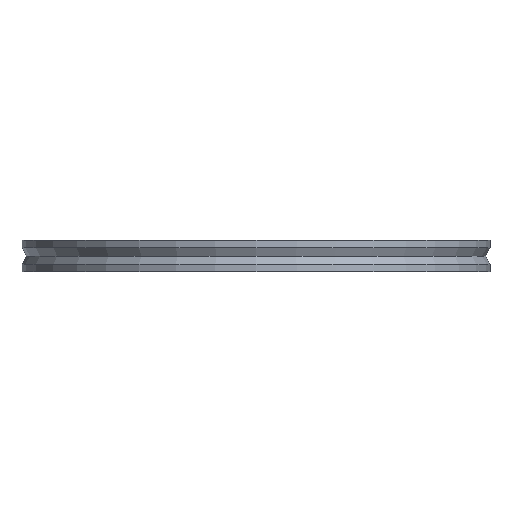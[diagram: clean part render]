
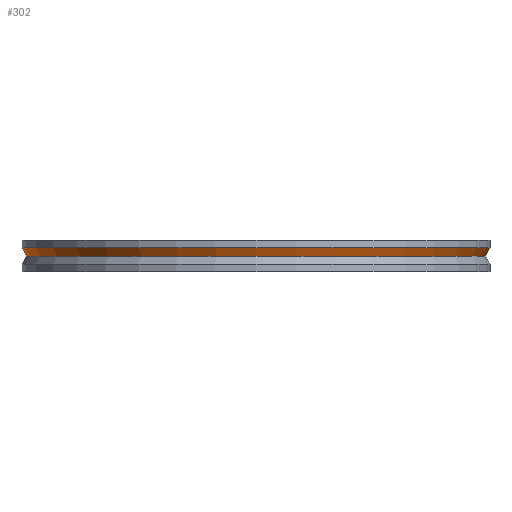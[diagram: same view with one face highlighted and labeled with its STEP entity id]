
A CAD part, front view. The second image highlights one B-rep face of the part: STEP entity #302.
In plain terms, the highlighted conical face has half-angle 27.5 degrees and reference radius 81.5 mm.
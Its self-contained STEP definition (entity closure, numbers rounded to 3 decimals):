
#5 = EDGE_CURVE ( 'NONE', #872, #146, #675, .T. ) ;
#18 = EDGE_CURVE ( 'NONE', #604, #146, #94, .T. ) ;
#24 = CARTESIAN_POINT ( 'NONE',  ( 81.5, 0., -2.619 ) ) ;
#38 = VECTOR ( 'NONE', #858, 1000. ) ;
#69 = FACE_OUTER_BOUND ( 'NONE', #789, .T. ) ;
#83 = CARTESIAN_POINT ( 'NONE',  ( -81.5, 0., -2.619 ) ) ;
#86 = ORIENTED_EDGE ( 'NONE', *, *, #18, .T. ) ;
#94 = LINE ( 'NONE', #24, #340 ) ;
#108 = CARTESIAN_POINT ( 'NONE',  ( 81.5, 0., -2.619 ) ) ;
#146 = VERTEX_POINT ( 'NONE', #108 ) ;
#147 = CARTESIAN_POINT ( 'NONE',  ( 80., 0., -5.5 ) ) ;
#184 = DIRECTION ( 'NONE',  ( 1., 0., 0. ) ) ;
#231 = DIRECTION ( 'NONE',  ( 0.462, 0., 0.887 ) ) ;
#302 = ADVANCED_FACE ( 'NONE', ( #69 ), #884, .T. ) ;
#340 = VECTOR ( 'NONE', #231, 1000. ) ;
#352 = CARTESIAN_POINT ( 'NONE',  ( -80., 0., -5.5 ) ) ;
#353 = CIRCLE ( 'NONE', #864, 80. ) ;
#371 = CARTESIAN_POINT ( 'NONE',  ( -81.5, 0., -2.619 ) ) ;
#394 = ORIENTED_EDGE ( 'NONE', *, *, #655, .T. ) ;
#400 = DIRECTION ( 'NONE',  ( 0., 0., 1. ) ) ;
#427 = AXIS2_PLACEMENT_3D ( 'NONE', #617, #544, #834 ) ;
#439 = DIRECTION ( 'NONE',  ( 1., 0., 0. ) ) ;
#477 = VERTEX_POINT ( 'NONE', #352 ) ;
#522 = AXIS2_PLACEMENT_3D ( 'NONE', #581, #718, #439 ) ;
#544 = DIRECTION ( 'NONE',  ( 0., 0., 1. ) ) ;
#572 = LINE ( 'NONE', #371, #38 ) ;
#581 = CARTESIAN_POINT ( 'NONE',  ( 0., 0., -2.619 ) ) ;
#604 = VERTEX_POINT ( 'NONE', #147 ) ;
#617 = CARTESIAN_POINT ( 'NONE',  ( 0., 0., -2.619 ) ) ;
#655 = EDGE_CURVE ( 'NONE', #477, #604, #353, .T. ) ;
#675 = CIRCLE ( 'NONE', #522, 81.5 ) ;
#690 = CARTESIAN_POINT ( 'NONE',  ( 0., 0., -5.5 ) ) ;
#718 = DIRECTION ( 'NONE',  ( 0., 0., 1. ) ) ;
#789 = EDGE_LOOP ( 'NONE', ( #802, #394, #86, #835 ) ) ;
#802 = ORIENTED_EDGE ( 'NONE', *, *, #819, .F. ) ;
#819 = EDGE_CURVE ( 'NONE', #477, #872, #572, .T. ) ;
#834 = DIRECTION ( 'NONE',  ( 1., 0., 0. ) ) ;
#835 = ORIENTED_EDGE ( 'NONE', *, *, #5, .F. ) ;
#858 = DIRECTION ( 'NONE',  ( -0.462, 0., 0.887 ) ) ;
#864 = AXIS2_PLACEMENT_3D ( 'NONE', #690, #400, #184 ) ;
#872 = VERTEX_POINT ( 'NONE', #83 ) ;
#884 = CONICAL_SURFACE ( 'NONE', #427, 81.5, 0.48 ) ;
